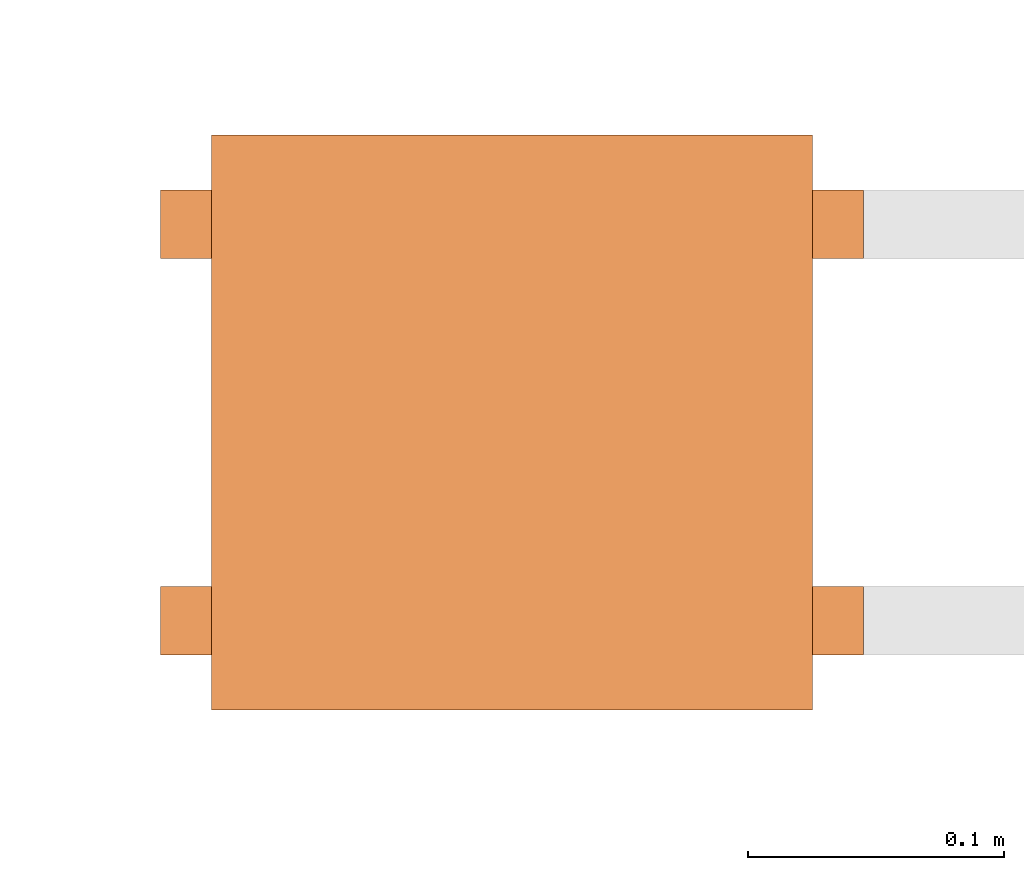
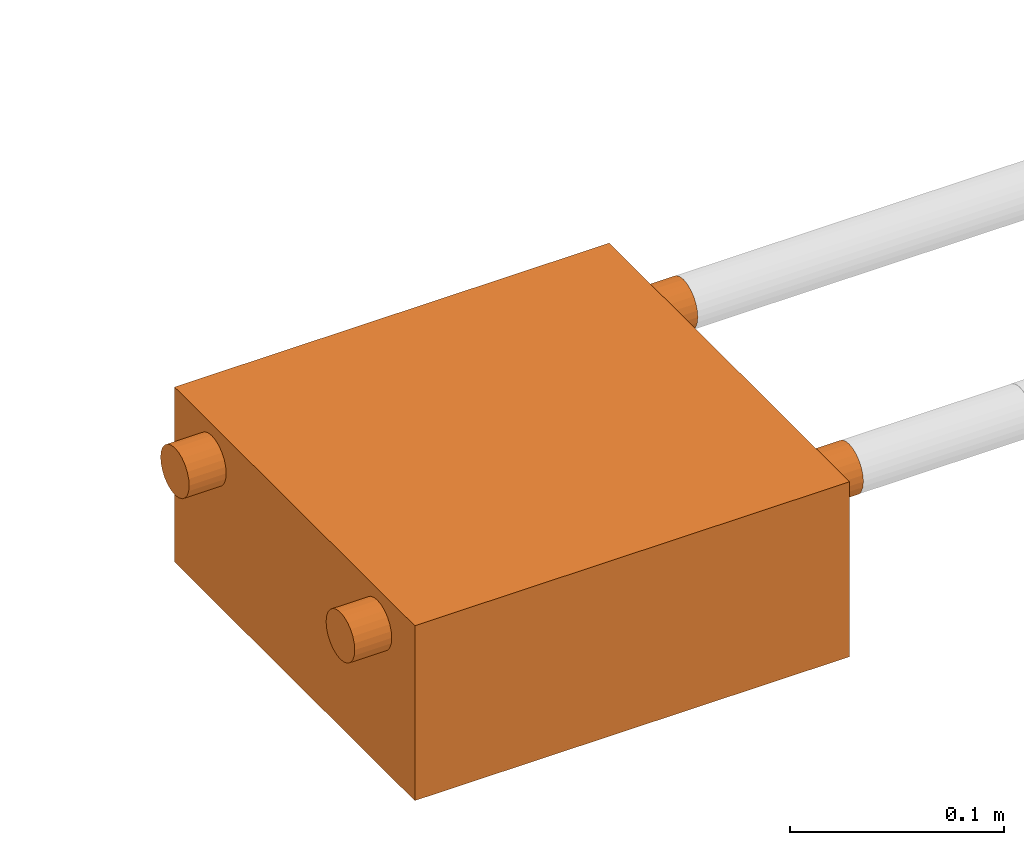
# One storey, part 156 of 156: 1 proxy.
"""IFC2X3 building model written with IfcOpenShell, lengths in millimetres."""

from ifc_helpers import new_model, entity, si_unit, converted_unit, derived_unit, direction, frame, origin_with_axes, place, context, subcontext, project, spatial, open_shell, surface_model, source, transform, mapped, element, save


model = new_model("IFC2X3")

# Units and contexts
model_context = context("Model", 3, precision=0.01, world=frame((0.0, 4.29681676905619e-09, 0.0)), true_north=direction((4.01073788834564e-13, 1.0)))
plan_context = context("Plan", 3, precision=0.01, world=frame((0.0, 4.29681676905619e-09, 0.0)), true_north=direction((4.01073788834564e-13, 1.0)))
body_context = subcontext(model_context, "Body", "Model", "MODEL_VIEW")
ifc_project = project(units=[converted_unit("PLANEANGLEUNIT", "DEGREE", entity("IfcPositiveLengthMeasure", 0.0174532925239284), si_unit("PLANEANGLEUNIT", "RADIAN"), dimensions=[0, 0, 0, 0, 0, 0, 0]), si_unit("AREAUNIT", "SQUARE_METRE"), si_unit("LENGTHUNIT", "METRE", prefix="MILLI"), si_unit("MASSUNIT", "GRAM", prefix="KILO"), si_unit("POWERUNIT", "WATT"), si_unit("PRESSUREUNIT", "PASCAL", prefix="KILO"), si_unit("FORCEUNIT", "NEWTON", prefix="KILO"), si_unit("ELECTRICVOLTAGEUNIT", "VOLT"), si_unit("ELECTRICCURRENTUNIT", "AMPERE"), si_unit("THERMODYNAMICTEMPERATUREUNIT", "DEGREE_CELSIUS"), si_unit("TIMEUNIT", "SECOND"), si_unit("VOLUMEUNIT", "CUBIC_METRE"), derived_unit("LINEARVELOCITYUNIT", [(si_unit("LENGTHUNIT", "METRE"), 1), (si_unit("TIMEUNIT", "SECOND"), -1)]), derived_unit("VOLUMETRICFLOWRATEUNIT", [(si_unit("VOLUMEUNIT", "CUBIC_METRE"), 1), (si_unit("TIMEUNIT", "SECOND"), -1)]), derived_unit("THERMALTRANSMITTANCEUNIT", [(si_unit("POWERUNIT", "WATT"), 1), (si_unit("THERMODYNAMICTEMPERATUREUNIT", "KELVIN"), -1), (si_unit("AREAUNIT", "SQUARE_METRE"), -1)]), derived_unit("SOUNDPRESSUREUNIT", [(si_unit("PRESSUREUNIT", "PASCAL"), 1)])], contexts=[model_context, plan_context])

# Site, building, storey
site_placement = place(None, frame((0.0, -4.29681676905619e-09, 0.0), z_axis=(0.0, 0.0, 1.0), x_axis=(1.0, 0.0, 0.0)))
site = spatial("IfcSite", under=ifc_project, at=site_placement, CompositionType="ELEMENT")
building_placement = place(site_placement, frame((0.0, 4.29681676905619e-09, 0.0), z_axis=(0.0, 0.0, 1.0), x_axis=(1.0, 0.0, 0.0)))
building = spatial("IfcBuilding", under=site, at=building_placement, Name="mc-building", CompositionType="ELEMENT")
storey_placement = place(building_placement, frame((0.0, 0.0, 205200.0), z_axis=(0.0, 0.0, 1.0), x_axis=(1.0, 0.0, 0.0)))
storey = spatial("IfcBuildingStorey", under=building, at=storey_placement, Name="Nivå D + 1,2 m", CompositionType="ELEMENT", Elevation=205200.0)

# Proxy
shared_shape = source(origin_with_axes(), body_context, "Body", "SurfaceModel", [
    surface_model("IfcShellBasedSurfaceModel", [(255.0, 189.99999, 93.4), (255.0, 186.53182, 92.94341), (255.0, 183.3, 91.60474), (255.0, 196.7, 91.60474), (255.0, 180.52477, 89.47523), (255.0, 178.39525, 86.7), (255.0, 177.0566, 83.46818), (255.0, 199.47523, 89.47523), (255.0, 193.46817, 92.94341), (255.0, 202.94341, 83.46818), (255.0, 201.60474, 86.7), (255.0, 203.39999, 80.0), (255.0, 196.7, 68.39526), (255.0, 180.52477, 70.52477), (255.0, 176.59999, 80.0), (255.0, 177.0566, 76.53183), (255.0, 178.39525, 73.3), (255.0, 189.99999, 66.6), (255.0, 183.3, 68.39526), (255.0, 186.53182, 67.05659), (255.0, 202.94341, 76.53183), (255.0, 199.47523, 70.52477), (255.0, 201.60474, 73.3), (255.0, 193.46817, 67.05659), (235.0, 189.99999, 66.6), (235.0, 186.53182, 67.05659), (235.0, 183.3, 68.39526), (235.0, 180.52477, 70.52477), (235.0, 177.0566, 76.53183), (235.0, 176.59999, 80.0), (235.0, 178.39525, 73.3), (235.0, 199.47523, 89.47523), (235.0, 196.7, 68.39526), (235.0, 193.46817, 67.05659), (235.0, 199.47523, 70.52477), (235.0, 202.94341, 76.53183), (235.0, 201.60474, 73.3), (235.0, 203.39999, 80.0), (235.0, 177.0566, 83.46818), (235.0, 178.39525, 86.7), (235.0, 180.52477, 89.47523), (235.0, 183.3, 91.60474), (235.0, 186.53182, 92.94341), (235.0, 189.99999, 93.4), (235.0, 196.7, 91.60474), (235.0, 202.94341, 83.46818), (235.0, 201.60474, 86.7), (235.0, 193.46817, 92.94341), (255.0, 35.0, 66.6), (255.0, 38.46817, 67.05659), (255.0, 41.7, 68.39526), (255.0, 31.53183, 67.05659), (255.0, 46.60474, 73.3), (255.0, 44.47523, 70.52477), (255.0, 22.05659, 83.46818), (255.0, 21.6, 80.0), (255.0, 25.52477, 70.52477), (255.0, 28.3, 68.39526), (255.0, 22.05659, 76.53183), (255.0, 23.39526, 73.3), (255.0, 47.94341, 76.53183), (255.0, 48.4, 80.0), (255.0, 44.47523, 89.47523), (255.0, 47.94341, 83.46818), (255.0, 46.60474, 86.7), (255.0, 41.7, 91.60474), (255.0, 38.46817, 92.94341), (255.0, 23.39526, 86.7), (255.0, 31.53183, 92.94341), (255.0, 25.52477, 89.47523), (255.0, 35.0, 93.4), (255.0, 28.3, 91.60474), (235.0, 38.46817, 92.94341), (235.0, 41.7, 91.60474), (235.0, 44.47523, 89.47523), (235.0, 35.0, 93.4), (235.0, 47.94341, 83.46818), (235.0, 48.4, 80.0), (235.0, 46.60474, 86.7), (235.0, 31.53183, 92.94341), (235.0, 25.52477, 89.47523), (235.0, 28.3, 91.60474), (235.0, 23.39526, 86.7), (235.0, 21.6, 80.0), (235.0, 22.05659, 83.46818), (235.0, 46.60474, 73.3), (235.0, 41.7, 68.39526), (235.0, 44.47523, 70.52477), (235.0, 38.46817, 67.05659), (235.0, 35.0, 66.6), (235.0, 31.53183, 67.05659), (235.0, 22.05659, 76.53183), (235.0, 25.52477, 70.52477), (235.0, 23.39526, 73.3), (235.0, 28.3, 68.39526), (235.0, 47.94341, 76.53183), (-20.0, 35.0, 93.4), (-20.0, 38.46817, 92.94341), (-20.0, 41.7, 91.60474), (-20.0, 31.53183, 92.94341), (-20.0, 22.05659, 76.53183), (-20.0, 25.52477, 89.47523), (-20.0, 46.60474, 86.7), (-20.0, 44.47523, 89.47523), (-20.0, 28.3, 91.60474), (-20.0, 22.05659, 83.46818), (-20.0, 23.39526, 86.7), (-20.0, 21.6, 80.0), (-20.0, 47.94341, 83.46818), (-20.0, 44.47523, 70.52477), (-20.0, 48.4, 80.0), (-20.0, 47.94341, 76.53183), (-20.0, 46.60474, 73.3), (-20.0, 41.7, 68.39526), (-20.0, 38.46817, 67.05659), (-20.0, 25.52477, 70.52477), (-20.0, 23.39526, 73.3), (-20.0, 35.0, 66.6), (-20.0, 31.53183, 67.05659), (-20.0, 28.3, 68.39526), (0.0, 41.7, 68.39526), (0.0, 35.0, 66.6), (0.0, 38.46817, 67.05659), (0.0, 44.47523, 70.52477), (0.0, 47.94341, 76.53183), (0.0, 48.4, 80.0), (0.0, 46.60474, 73.3), (0.0, 25.52477, 89.47523), (0.0, 31.53183, 67.05659), (0.0, 25.52477, 70.52477), (0.0, 28.3, 68.39526), (0.0, 22.05659, 76.53183), (0.0, 23.39526, 73.3), (0.0, 41.7, 91.60474), (0.0, 46.60474, 86.7), (0.0, 44.47523, 89.47523), (0.0, 38.46817, 92.94341), (0.0, 35.0, 93.4), (0.0, 31.53183, 92.94341), (0.0, 22.05659, 83.46818), (0.0, 23.39526, 86.7), (0.0, 21.6, 80.0), (0.0, 28.3, 91.60474), (0.0, 47.94341, 83.46818), (-20.0, 189.99999, 66.6), (-20.0, 186.53182, 67.05659), (-20.0, 183.3, 68.39526), (-20.0, 199.47523, 70.52477), (-20.0, 180.52477, 70.52477), (-20.0, 178.39525, 73.3), (-20.0, 177.0566, 76.53183), (-20.0, 193.46817, 67.05659), (-20.0, 196.7, 68.39526), (-20.0, 202.94341, 76.53183), (-20.0, 201.60474, 73.3), (-20.0, 196.7, 91.60474), (-20.0, 203.39999, 80.0), (-20.0, 180.52477, 89.47523), (-20.0, 176.59999, 80.0), (-20.0, 177.0566, 83.46818), (-20.0, 178.39525, 86.7), (-20.0, 183.3, 91.60474), (-20.0, 186.53182, 92.94341), (-20.0, 189.99999, 93.4), (-20.0, 202.94341, 83.46818), (-20.0, 199.47523, 89.47523), (-20.0, 201.60474, 86.7), (-20.0, 193.46817, 92.94341), (0.0, 186.53182, 92.94341), (0.0, 183.3, 91.60474), (0.0, 180.52477, 89.47523), (0.0, 189.99999, 93.4), (0.0, 177.0566, 83.46818), (0.0, 176.59999, 80.0), (0.0, 178.39525, 86.7), (0.0, 177.0566, 76.53183), (0.0, 196.7, 91.60474), (0.0, 193.46817, 92.94341), (0.0, 199.47523, 89.47523), (0.0, 202.94341, 83.46818), (0.0, 201.60474, 86.7), (0.0, 203.39999, 80.0), (0.0, 202.94341, 76.53183), (0.0, 178.39525, 73.3), (0.0, 180.52477, 70.52477), (0.0, 183.3, 68.39526), (0.0, 186.53182, 67.05659), (0.0, 189.99999, 66.6), (0.0, 199.47523, 70.52477), (0.0, 193.46817, 67.05659), (0.0, 201.60474, 73.3), (0.0, 196.7, 68.39526), (0.0, 0.0, 100.0), (235.0, 0.0, 100.0), (235.0, 225.0, 100.0), (0.0, 225.0, 100.0), (0.0, 225.0, 0.0), (235.0, 225.0, 0.0), (235.0, 0.0, 0.0), (0.0, 0.0, 0.0)], [open_shell([[[0, 1, 2]], [[3, 0, 2]], [[4, 5, 6]], [[4, 6, 2]], [[7, 2, 6]], [[2, 7, 3]], [[3, 8, 0]], [[7, 9, 10]], [[9, 7, 11]], [[12, 11, 7]], [[7, 6, 13]], [[13, 14, 15]], [[13, 15, 16]], [[17, 13, 18]], [[12, 7, 13]], [[19, 17, 18]], [[20, 21, 22]], [[20, 11, 21]], [[12, 17, 23]], [[11, 12, 21]], [[13, 17, 12]], [[13, 6, 14]], [[24, 25, 26]], [[27, 24, 26]], [[28, 29, 27]], [[28, 27, 30]], [[27, 31, 32]], [[24, 32, 33]], [[24, 27, 32]], [[34, 35, 36]], [[37, 35, 34]], [[34, 32, 37]], [[27, 29, 38]], [[38, 39, 40]], [[38, 40, 41]], [[41, 42, 43]], [[38, 41, 31]], [[44, 41, 43]], [[45, 31, 46]], [[31, 45, 37]], [[31, 37, 32]], [[41, 44, 31]], [[43, 47, 44]], [[31, 27, 38]], [[6, 38, 14]], [[5, 39, 6]], [[41, 4, 2]], [[5, 4, 40]], [[42, 2, 1]], [[6, 39, 38]], [[38, 29, 14]], [[42, 41, 2]], [[40, 4, 41]], [[40, 39, 5]], [[43, 42, 1]], [[1, 0, 43]], [[7, 44, 3]], [[46, 10, 9]], [[7, 10, 31]], [[11, 45, 9]], [[3, 47, 8]], [[3, 44, 47]], [[47, 43, 8]], [[7, 31, 44]], [[10, 46, 31]], [[45, 46, 9]], [[11, 37, 45]], [[8, 43, 0]], [[20, 35, 11]], [[22, 36, 20]], [[32, 21, 12]], [[22, 21, 34]], [[33, 12, 23]], [[20, 36, 35]], [[35, 37, 11]], [[33, 32, 12]], [[34, 21, 32]], [[34, 36, 22]], [[24, 33, 23]], [[23, 17, 24]], [[17, 19, 25]], [[30, 16, 15]], [[16, 27, 13]], [[28, 15, 14]], [[19, 26, 25]], [[26, 19, 18]], [[26, 18, 27]], [[18, 13, 27]], [[16, 30, 27]], [[28, 30, 15]], [[14, 29, 28]], [[17, 25, 24]], [[48, 49, 50]], [[51, 48, 50]], [[51, 50, 52]], [[52, 50, 53]], [[54, 55, 52]], [[51, 56, 57]], [[56, 51, 58]], [[56, 58, 59]], [[58, 51, 55]], [[51, 52, 55]], [[52, 60, 61]], [[62, 61, 63]], [[62, 63, 64]], [[62, 65, 66]], [[62, 54, 52]], [[54, 62, 66]], [[67, 68, 69]], [[70, 67, 54]], [[69, 68, 71]], [[68, 67, 70]], [[54, 66, 70]], [[62, 52, 61]], [[72, 73, 74]], [[75, 72, 74]], [[76, 77, 74]], [[76, 74, 78]], [[75, 74, 77]], [[79, 80, 81]], [[80, 79, 75]], [[75, 82, 80]], [[75, 77, 82]], [[82, 83, 84]], [[82, 77, 83]], [[83, 77, 85]], [[86, 85, 87]], [[86, 88, 89]], [[85, 86, 83]], [[89, 90, 86]], [[91, 92, 93]], [[90, 91, 83]], [[92, 90, 94]], [[90, 92, 91]], [[83, 86, 90]], [[85, 77, 95]], [[54, 84, 55]], [[67, 82, 54]], [[81, 69, 71]], [[67, 69, 80]], [[79, 71, 68]], [[54, 82, 84]], [[84, 83, 55]], [[79, 81, 71]], [[80, 69, 81]], [[80, 82, 67]], [[75, 79, 68]], [[68, 70, 75]], [[70, 66, 72]], [[78, 64, 63]], [[64, 74, 62]], [[76, 63, 61]], [[66, 73, 72]], [[73, 66, 65]], [[73, 65, 74]], [[65, 62, 74]], [[64, 78, 74]], [[76, 78, 63]], [[61, 77, 76]], [[70, 72, 75]], [[60, 95, 61]], [[52, 85, 60]], [[86, 53, 50]], [[52, 53, 87]], [[88, 50, 49]], [[60, 85, 95]], [[95, 77, 61]], [[88, 86, 50]], [[87, 53, 86]], [[87, 85, 52]], [[89, 88, 49]], [[49, 48, 89]], [[56, 94, 57]], [[93, 59, 58]], [[56, 59, 92]], [[55, 91, 58]], [[57, 90, 51]], [[57, 94, 90]], [[90, 89, 51]], [[56, 92, 94]], [[59, 93, 92]], [[91, 93, 58]], [[55, 83, 91]], [[51, 89, 48]], [[96, 97, 98]], [[99, 96, 98]], [[98, 100, 101]], [[102, 98, 103]], [[102, 100, 98]], [[99, 101, 104]], [[99, 98, 101]], [[101, 105, 106]], [[105, 101, 107]], [[101, 100, 107]], [[102, 108, 100]], [[109, 110, 111]], [[109, 111, 112]], [[100, 109, 113]], [[109, 100, 110]], [[100, 113, 114]], [[100, 115, 116]], [[115, 100, 117]], [[115, 118, 119]], [[118, 115, 117]], [[100, 114, 117]], [[110, 100, 108]], [[120, 121, 122]], [[123, 121, 120]], [[124, 125, 123]], [[124, 123, 126]], [[123, 127, 121]], [[128, 129, 130]], [[129, 128, 121]], [[129, 131, 132]], [[131, 129, 121]], [[131, 121, 127]], [[133, 123, 125]], [[125, 134, 133]], [[133, 134, 135]], [[133, 136, 137]], [[127, 123, 133]], [[137, 138, 133]], [[139, 127, 140]], [[127, 139, 141]], [[127, 138, 142]], [[141, 131, 127]], [[133, 138, 127]], [[134, 125, 143]], [[108, 143, 110]], [[102, 134, 108]], [[133, 103, 98]], [[102, 103, 135]], [[136, 98, 97]], [[108, 134, 143]], [[143, 125, 110]], [[136, 133, 98]], [[135, 103, 133]], [[135, 134, 102]], [[137, 136, 97]], [[97, 96, 137]], [[101, 142, 104]], [[140, 106, 105]], [[101, 106, 127]], [[107, 139, 105]], [[104, 138, 99]], [[104, 142, 138]], [[138, 137, 99]], [[101, 127, 142]], [[106, 140, 127]], [[139, 140, 105]], [[107, 141, 139]], [[99, 137, 96]], [[100, 131, 107]], [[116, 132, 100]], [[130, 115, 119]], [[116, 115, 129]], [[128, 119, 118]], [[100, 132, 131]], [[131, 141, 107]], [[128, 130, 119]], [[129, 115, 130]], [[129, 132, 116]], [[121, 128, 118]], [[118, 117, 121]], [[117, 114, 122]], [[126, 112, 111]], [[112, 123, 109]], [[124, 111, 110]], [[114, 120, 122]], [[120, 114, 113]], [[120, 113, 123]], [[113, 109, 123]], [[112, 126, 123]], [[124, 126, 111]], [[110, 125, 124]], [[117, 122, 121]], [[144, 145, 146]], [[147, 144, 146]], [[148, 149, 150]], [[148, 150, 146]], [[147, 146, 150]], [[151, 147, 152]], [[151, 144, 147]], [[147, 153, 154]], [[153, 147, 155]], [[155, 156, 153]], [[157, 147, 150]], [[157, 158, 159]], [[157, 159, 160]], [[157, 161, 162]], [[155, 147, 157]], [[163, 157, 162]], [[164, 165, 166]], [[164, 156, 165]], [[155, 163, 167]], [[156, 155, 165]], [[157, 163, 155]], [[157, 150, 158]], [[168, 169, 170]], [[171, 168, 170]], [[172, 173, 170]], [[172, 170, 174]], [[170, 175, 176]], [[171, 176, 177]], [[171, 170, 176]], [[178, 179, 180]], [[181, 179, 178]], [[178, 176, 182]], [[170, 173, 175]], [[175, 183, 184]], [[175, 184, 185]], [[185, 186, 187]], [[175, 185, 188]], [[189, 185, 187]], [[182, 188, 190]], [[181, 178, 182]], [[188, 189, 191]], [[176, 188, 182]], [[185, 189, 188]], [[176, 175, 188]], [[164, 179, 156]], [[166, 180, 164]], [[176, 165, 155]], [[166, 165, 178]], [[177, 155, 167]], [[164, 180, 179]], [[179, 181, 156]], [[177, 176, 155]], [[178, 165, 176]], [[178, 180, 166]], [[171, 177, 167]], [[167, 163, 171]], [[163, 162, 168]], [[174, 160, 159]], [[160, 170, 157]], [[172, 159, 158]], [[162, 169, 168]], [[169, 162, 161]], [[169, 161, 170]], [[161, 157, 170]], [[160, 174, 170]], [[172, 174, 159]], [[158, 173, 172]], [[163, 168, 171]], [[150, 175, 158]], [[149, 183, 150]], [[185, 148, 146]], [[149, 148, 184]], [[186, 146, 145]], [[150, 183, 175]], [[175, 173, 158]], [[186, 185, 146]], [[184, 148, 185]], [[184, 183, 149]], [[187, 186, 145]], [[145, 144, 187]], [[147, 191, 152]], [[190, 154, 153]], [[147, 154, 188]], [[156, 182, 153]], [[152, 189, 151]], [[152, 191, 189]], [[189, 187, 151]], [[147, 188, 191]], [[154, 190, 188]], [[182, 190, 153]], [[156, 181, 182]], [[151, 187, 144]], [[192, 193, 194]], [[194, 195, 192]], [[196, 197, 198]], [[198, 199, 196]], [[194, 193, 198]], [[198, 197, 194]], [[195, 194, 197]], [[197, 196, 195]], [[192, 195, 196]], [[196, 199, 192]], [[193, 192, 198]], [[199, 198, 192]]])]),
])
proxy_placement = place(storey_placement, frame((322344.34276, 459088.07852, 3958.0), z_axis=(0.0, 0.0, 1.0), x_axis=(1.0, 0.0, 0.0)))
element("IfcBuildingElementProxy", 1, at=proxy_placement, inside=storey, Name="Pådrag_DN20_4", context=body_context, shape_type="MappedRepresentation", body=[
    mapped(shared_shape, transform((0.0, 0.0, 0.0), scale=1.0)),
])

save(model, "model.ifc")
